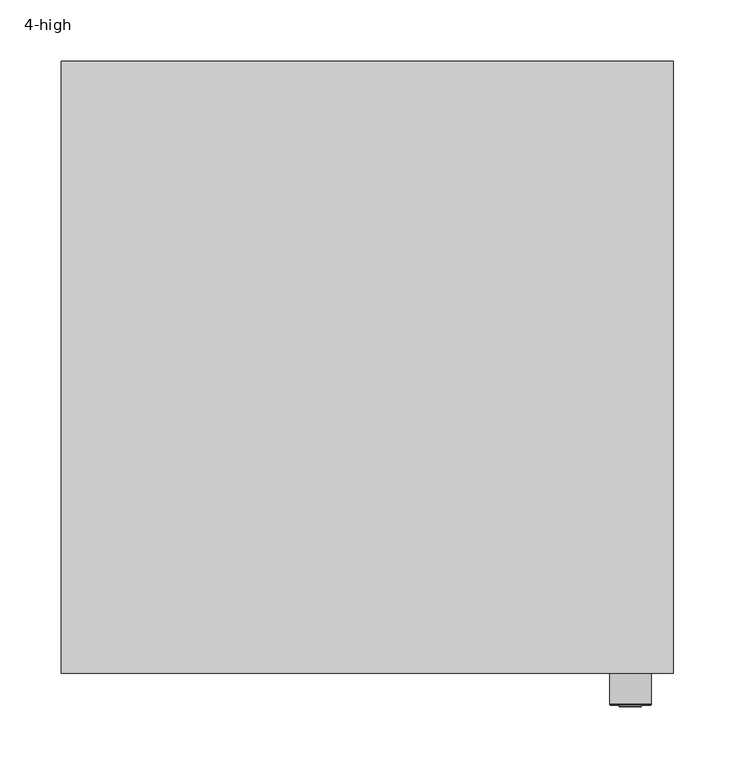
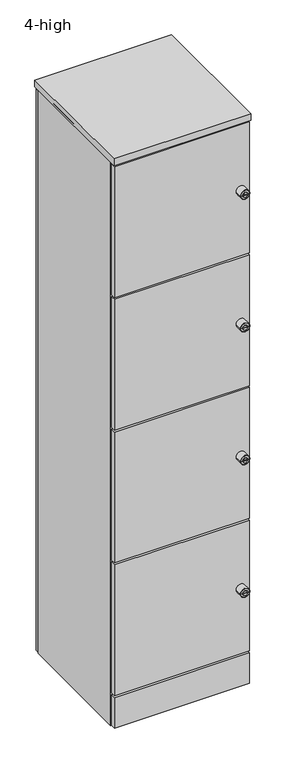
"""IFC4 building model written with IfcOpenShell, lengths in millimetres: furniture geometry, Furniture_Storage_Spacestor_SignatureHotLocker : 4-high."""

from ifc_helpers import new_model, si_unit, point, frame, origin, origin_with_axes, place, context, project, spatial, polyline, circle_curve, ellipse_curve, trimmed, outline, extrude, source, transform, mapped, element, save
from ifc_brep_helpers import plane_surface, cylinder_surface, revolved_surface, advanced_brep


def furniture_4_high_febe7ffe(model_context):
    return source(origin(), model_context, "Body", "SolidModel", [
        extrude(outline(polyline([(489.0, 0.0), (11.0, 0.0), (11.0, 459.0), (489.0, 459.0), (489.0, 0.0)])), frame((0.0, 0.0, 2158.5), z_axis=(0.0, 0.0, 1.0), x_axis=(1.0, 0.0, 0.0)), (0.0, 0.0, 1.0), 22.0),
        extrude(outline(polyline([(489.0, 0.0), (11.0, 0.0), (11.0, 459.0), (489.0, 459.0), (489.0, 0.0)])), frame((0.0, 0.0, 1646.5), z_axis=(0.0, 0.0, 1.0), x_axis=(1.0, 0.0, 0.0)), (0.0, 0.0, 1.0), 22.0),
        extrude(outline(polyline([(489.0, 0.0), (11.0, 0.0), (11.0, 459.0), (489.0, 459.0), (489.0, 0.0)])), frame((0.0, 0.0, 1134.5), z_axis=(0.0, 0.0, 1.0), x_axis=(1.0, 0.0, 0.0)), (0.0, 0.0, 1.0), 22.0),
        extrude(outline(polyline([(489.0, 0.0), (11.0, 0.0), (11.0, 459.0), (489.0, 459.0), (489.0, 0.0)])), frame((0.0, 0.0, 622.5), z_axis=(0.0, 0.0, 1.0), x_axis=(1.0, 0.0, 0.0)), (0.0, 0.0, 1.0), 22.0),
        advanced_brep(
        [(448.0, -45.3116344, 1913.5), (482.0, -45.3116344, 1913.5), (482.0, -18.0, 1913.5), (448.0, -18.0, 1913.5), (465.0, -18.0, 1913.5), (456.0252681, -46.3150077, 1913.5), (473.9747319, -46.3150077, 1913.5), (480.9966266, -46.3150077, 1913.5), (449.0033734, -46.3150077, 1913.5), (456.0252681, -47.4703043, 1913.5), (473.9747319, -47.4703043, 1913.5), (460.1754848, -47.4703043, 1913.5), (460.1754848, -47.4703043, 1914.8633438), (469.8245152, -47.4703043, 1914.8633438), (469.8245152, -47.4703043, 1913.5), (469.8245152, -47.4703043, 1912.1366562), (460.1754848, -47.4703043, 1912.1366562), (469.8245152, -27.8604291, 1914.8633438), (460.1754848, -27.8604291, 1914.8633438), (460.1754848, -27.8604291, 1912.1366562), (469.8245152, -27.8604291, 1912.1366562)],
        [
            (0, 1, circle_curve(frame((465.0, -45.3116344, 1913.5), z_axis=(0.0, 1.0, 0.0), x_axis=(1.0, 0.0, 0.0)), 17.0)),
            (1, 2),
            (2, 3, circle_curve(frame((465.0, -18.0, 1913.5), z_axis=(0.0, -1.0, 0.0), x_axis=(1.0, 0.0, 0.0)), 17.0)),
            (3, 0),
            (1, 0, circle_curve(frame((465.0, -45.3116344, 1913.5), z_axis=(0.0, 1.0, 0.0), x_axis=(1.0, 0.0, 0.0)), 17.0)),
            (3, 2, circle_curve(frame((465.0, -18.0, 1913.5), z_axis=(0.0, -1.0, 0.0), x_axis=(1.0, 0.0, 0.0)), 17.0)),
            (2, 4),
            (4, 3),
            (5, 6, circle_curve(frame((465.0, -46.3150077, 1913.5), z_axis=(0.0, 1.0, 0.0), x_axis=(1.0, 0.0, 0.0)), 8.9747319)),
            (6, 7),
            (7, 8, circle_curve(frame((465.0, -46.3150077, 1913.5), z_axis=(0.0, -1.0, 0.0), x_axis=(1.0, 0.0, 0.0)), 15.9966266)),
            (8, 5),
            (6, 5, circle_curve(frame((465.0, -46.3150077, 1913.5), z_axis=(0.0, 1.0, 0.0), x_axis=(1.0, 0.0, 0.0)), 8.9747319)),
            (8, 7, circle_curve(frame((465.0, -46.3150077, 1913.5), z_axis=(0.0, -1.0, 0.0), x_axis=(1.0, 0.0, 0.0)), 15.9966266)),
            (0, 8, circle_curve(frame((449.0033734, -45.3116344, 1913.5), z_axis=(0.0, 0.0, 1.0), x_axis=(-1.0, 0.0, 0.0)), 1.0033734)),
            (7, 1, circle_curve(frame((480.9966266, -45.3116344, 1913.5), z_axis=(0.0, 0.0, 1.0), x_axis=(1.0, 0.0, 0.0)), 1.0033734)),
            (5, 9),
            (9, 10, circle_curve(frame((465.0, -47.4703043, 1913.5), z_axis=(0.0, 1.0, 0.0), x_axis=(1.0, 0.0, 0.0)), 8.9747319)),
            (10, 6),
            (10, 9, circle_curve(frame((465.0, -47.4703043, 1913.5), z_axis=(0.0, 1.0, 0.0), x_axis=(1.0, 0.0, 0.0)), 8.9747319)),
            (9, 11),
            (11, 12),
            (12, 13),
            (13, 14),
            (14, 10),
            (14, 15),
            (15, 16),
            (16, 11),
            (17, 18),
            (18, 19),
            (19, 20),
            (20, 17),
            (17, 13),
            (12, 18),
            (16, 19),
            (15, 20),
        ],
        [
            cylinder_surface(frame((465.0, -2627.0581012, 1913.5), z_axis=(0.0, -1.0, 0.0), x_axis=(1.0, 0.0, 0.0)), 17.0),
            plane_surface(frame((465.0, -18.0, 1913.5), z_axis=(0.0, 1.0, 0.0), x_axis=(1.0, 0.0, 0.0))),
            plane_surface(frame((465.0, -46.3150077, 1913.5), z_axis=(0.0, -1.0, 0.0), x_axis=(1.0, 0.0, 0.0))),
            revolved_surface(trimmed(ellipse_curve(frame((480.9966266, -45.3116344, 1913.5), z_axis=(0.0, 0.0, -1.0), x_axis=(1.0, 0.0, 0.0)), 1.0033734, 1.0033734), [point((482.0, -45.3116344, 1913.5))], [point((480.9966266, -46.3150077, 1913.5))], True, "CARTESIAN"), (465.0, -2627.0581012, 1913.5), (0.0, -1.0, 0.0)),
            cylinder_surface(frame((465.0, -2627.0581012, 1913.5), z_axis=(0.0, -1.0, 0.0), x_axis=(1.0, 0.0, 0.0)), 8.9747319),
            plane_surface(frame((465.0, -47.4703043, 1913.5), z_axis=(0.0, -1.0, 0.0), x_axis=(1.0, 0.0, 0.0))),
            plane_surface(frame((460.5434751, -27.8604291, 1914.8633438), z_axis=(0.0, -1.0, 0.0), x_axis=(1.0, 0.0, 0.0))),
            plane_surface(frame((469.8245152, -49.2046383, 1914.8633438), z_axis=(0.0, 0.0, -1.0), x_axis=(0.0, 1.0, 0.0))),
            plane_surface(frame((460.1754848, -49.2046383, 1914.8633438), z_axis=(1.0, 0.0, 0.0), x_axis=(0.0, 1.0, 0.0))),
            plane_surface(frame((460.1754848, -49.2046383, 1912.1366562), z_axis=(0.0, 0.0, 1.0), x_axis=(0.0, 1.0, 0.0))),
            plane_surface(frame((469.8245152, -49.2046383, 1912.1366562), z_axis=(-1.0, 0.0, 0.0), x_axis=(0.0, 1.0, 0.0))),
        ],
        [
            (0, [[1, 2, 3, 4]]),
            (0, [[-2, 5, -4, 6]]),
            (1, [[-3, 7, 8]]),
            (1, [[-6, -8, -7]]),
            (2, [[9, 10, 11, 12]]),
            (2, [[-10, 13, -12, 14]]),
            (3, [[-1, 15, -11, 16]]),
            (3, [[-5, -16, -14, -15]]),
            (4, [[-9, 17, 18, 19]]),
            (4, [[-13, -19, 20, -17]]),
            (5, [[-18, 21, 22, 23, 24, 25]]),
            (5, [[-20, -25, 26, 27, 28, -21]]),
            (6, [[29, 30, 31, 32]]),
            (7, [[-29, 33, -23, 34]]),
            (8, [[-30, -34, -22, -28, 35]]),
            (9, [[-31, -35, -27, 36]]),
            (10, [[-32, -36, -26, -24, -33]]),
        ],
    ),
        advanced_brep(
        [(448.0, -45.3116344, 1401.5), (482.0, -45.3116344, 1401.5), (482.0, -18.0, 1401.5), (448.0, -18.0, 1401.5), (465.0, -18.0, 1401.5), (456.0252681, -46.3150077, 1401.5), (473.9747319, -46.3150077, 1401.5), (480.9966266, -46.3150077, 1401.5), (449.0033734, -46.3150077, 1401.5), (456.0252681, -47.4703043, 1401.5), (473.9747319, -47.4703043, 1401.5), (460.1754848, -47.4703043, 1401.5), (460.1754848, -47.4703043, 1402.8633438), (469.8245152, -47.4703043, 1402.8633438), (469.8245152, -47.4703043, 1401.5), (469.8245152, -47.4703043, 1400.1366562), (460.1754848, -47.4703043, 1400.1366562), (469.8245152, -27.8604291, 1402.8633438), (460.1754848, -27.8604291, 1402.8633438), (460.1754848, -27.8604291, 1400.1366562), (469.8245152, -27.8604291, 1400.1366562)],
        [
            (0, 1, circle_curve(frame((465.0, -45.3116344, 1401.5), z_axis=(0.0, 1.0, 0.0), x_axis=(1.0, 0.0, 0.0)), 17.0)),
            (1, 2),
            (2, 3, circle_curve(frame((465.0, -18.0, 1401.5), z_axis=(0.0, -1.0, 0.0), x_axis=(1.0, 0.0, 0.0)), 17.0)),
            (3, 0),
            (1, 0, circle_curve(frame((465.0, -45.3116344, 1401.5), z_axis=(0.0, 1.0, 0.0), x_axis=(1.0, 0.0, 0.0)), 17.0)),
            (3, 2, circle_curve(frame((465.0, -18.0, 1401.5), z_axis=(0.0, -1.0, 0.0), x_axis=(1.0, 0.0, 0.0)), 17.0)),
            (2, 4),
            (4, 3),
            (5, 6, circle_curve(frame((465.0, -46.3150077, 1401.5), z_axis=(0.0, 1.0, 0.0), x_axis=(1.0, 0.0, 0.0)), 8.9747319)),
            (6, 7),
            (7, 8, circle_curve(frame((465.0, -46.3150077, 1401.5), z_axis=(0.0, -1.0, 0.0), x_axis=(1.0, 0.0, 0.0)), 15.9966266)),
            (8, 5),
            (6, 5, circle_curve(frame((465.0, -46.3150077, 1401.5), z_axis=(0.0, 1.0, 0.0), x_axis=(1.0, 0.0, 0.0)), 8.9747319)),
            (8, 7, circle_curve(frame((465.0, -46.3150077, 1401.5), z_axis=(0.0, -1.0, 0.0), x_axis=(1.0, 0.0, 0.0)), 15.9966266)),
            (0, 8, circle_curve(frame((449.0033734, -45.3116344, 1401.5), z_axis=(0.0, 0.0, 1.0), x_axis=(-1.0, 0.0, 0.0)), 1.0033734)),
            (7, 1, circle_curve(frame((480.9966266, -45.3116344, 1401.5), z_axis=(0.0, 0.0, 1.0), x_axis=(1.0, 0.0, 0.0)), 1.0033734)),
            (5, 9),
            (9, 10, circle_curve(frame((465.0, -47.4703043, 1401.5), z_axis=(0.0, 1.0, 0.0), x_axis=(1.0, 0.0, 0.0)), 8.9747319)),
            (10, 6),
            (10, 9, circle_curve(frame((465.0, -47.4703043, 1401.5), z_axis=(0.0, 1.0, 0.0), x_axis=(1.0, 0.0, 0.0)), 8.9747319)),
            (9, 11),
            (11, 12),
            (12, 13),
            (13, 14),
            (14, 10),
            (14, 15),
            (15, 16),
            (16, 11),
            (17, 18),
            (18, 19),
            (19, 20),
            (20, 17),
            (17, 13),
            (12, 18),
            (16, 19),
            (15, 20),
        ],
        [
            cylinder_surface(frame((465.0, -2627.0581012, 1401.5), z_axis=(0.0, -1.0, 0.0), x_axis=(1.0, 0.0, 0.0)), 17.0),
            plane_surface(frame((465.0, -18.0, 1401.5), z_axis=(0.0, 1.0, 0.0), x_axis=(1.0, 0.0, 0.0))),
            plane_surface(frame((465.0, -46.3150077, 1401.5), z_axis=(0.0, -1.0, 0.0), x_axis=(1.0, 0.0, 0.0))),
            revolved_surface(trimmed(ellipse_curve(frame((480.9966266, -45.3116344, 1401.5), z_axis=(0.0, 0.0, -1.0), x_axis=(1.0, 0.0, 0.0)), 1.0033734, 1.0033734), [point((482.0, -45.3116344, 1401.5))], [point((480.9966266, -46.3150077, 1401.5))], True, "CARTESIAN"), (465.0, -2627.0581012, 1401.5), (0.0, -1.0, 0.0)),
            cylinder_surface(frame((465.0, -2627.0581012, 1401.5), z_axis=(0.0, -1.0, 0.0), x_axis=(1.0, 0.0, 0.0)), 8.9747319),
            plane_surface(frame((465.0, -47.4703043, 1401.5), z_axis=(0.0, -1.0, 0.0), x_axis=(1.0, 0.0, 0.0))),
            plane_surface(frame((460.5434751, -27.8604291, 1402.8633438), z_axis=(0.0, -1.0, 0.0), x_axis=(1.0, 0.0, 0.0))),
            plane_surface(frame((469.8245152, -49.2046383, 1402.8633438), z_axis=(0.0, 0.0, -1.0), x_axis=(0.0, 1.0, 0.0))),
            plane_surface(frame((460.1754848, -49.2046383, 1402.8633438), z_axis=(1.0, 0.0, 0.0), x_axis=(0.0, 1.0, 0.0))),
            plane_surface(frame((460.1754848, -49.2046383, 1400.1366562), z_axis=(0.0, 0.0, 1.0), x_axis=(0.0, 1.0, 0.0))),
            plane_surface(frame((469.8245152, -49.2046383, 1400.1366562), z_axis=(-1.0, 0.0, 0.0), x_axis=(0.0, 1.0, 0.0))),
        ],
        [
            (0, [[1, 2, 3, 4]]),
            (0, [[-2, 5, -4, 6]]),
            (1, [[-3, 7, 8]]),
            (1, [[-6, -8, -7]]),
            (2, [[9, 10, 11, 12]]),
            (2, [[-10, 13, -12, 14]]),
            (3, [[-1, 15, -11, 16]]),
            (3, [[-5, -16, -14, -15]]),
            (4, [[-9, 17, 18, 19]]),
            (4, [[-13, -19, 20, -17]]),
            (5, [[-18, 21, 22, 23, 24, 25]]),
            (5, [[-20, -25, 26, 27, 28, -21]]),
            (6, [[29, 30, 31, 32]]),
            (7, [[-29, 33, -23, 34]]),
            (8, [[-30, -34, -22, -28, 35]]),
            (9, [[-31, -35, -27, 36]]),
            (10, [[-32, -36, -26, -24, -33]]),
        ],
    ),
        advanced_brep(
        [(448.0, -45.3116344, 889.5), (482.0, -45.3116344, 889.5), (482.0, -18.0, 889.5), (448.0, -18.0, 889.5), (465.0, -18.0, 889.5), (456.0252681, -46.3150077, 889.5), (473.9747319, -46.3150077, 889.5), (480.9966266, -46.3150077, 889.5), (449.0033734, -46.3150077, 889.5), (456.0252681, -47.4703043, 889.5), (473.9747319, -47.4703043, 889.5), (460.1754848, -47.4703043, 889.5), (460.1754848, -47.4703043, 890.8633438), (469.8245152, -47.4703043, 890.8633438), (469.8245152, -47.4703043, 889.5), (469.8245152, -47.4703043, 888.1366562), (460.1754848, -47.4703043, 888.1366562), (469.8245152, -27.8604291, 890.8633438), (460.1754848, -27.8604291, 890.8633438), (460.1754848, -27.8604291, 888.1366562), (469.8245152, -27.8604291, 888.1366562)],
        [
            (0, 1, circle_curve(frame((465.0, -45.3116344, 889.5), z_axis=(0.0, 1.0, 0.0), x_axis=(1.0, 0.0, 0.0)), 17.0)),
            (1, 2),
            (2, 3, circle_curve(frame((465.0, -18.0, 889.5), z_axis=(0.0, -1.0, 0.0), x_axis=(1.0, 0.0, 0.0)), 17.0)),
            (3, 0),
            (1, 0, circle_curve(frame((465.0, -45.3116344, 889.5), z_axis=(0.0, 1.0, 0.0), x_axis=(1.0, 0.0, 0.0)), 17.0)),
            (3, 2, circle_curve(frame((465.0, -18.0, 889.5), z_axis=(0.0, -1.0, 0.0), x_axis=(1.0, 0.0, 0.0)), 17.0)),
            (2, 4),
            (4, 3),
            (5, 6, circle_curve(frame((465.0, -46.3150077, 889.5), z_axis=(0.0, 1.0, 0.0), x_axis=(1.0, 0.0, 0.0)), 8.9747319)),
            (6, 7),
            (7, 8, circle_curve(frame((465.0, -46.3150077, 889.5), z_axis=(0.0, -1.0, 0.0), x_axis=(1.0, 0.0, 0.0)), 15.9966266)),
            (8, 5),
            (6, 5, circle_curve(frame((465.0, -46.3150077, 889.5), z_axis=(0.0, 1.0, 0.0), x_axis=(1.0, 0.0, 0.0)), 8.9747319)),
            (8, 7, circle_curve(frame((465.0, -46.3150077, 889.5), z_axis=(0.0, -1.0, 0.0), x_axis=(1.0, 0.0, 0.0)), 15.9966266)),
            (0, 8, circle_curve(frame((449.0033734, -45.3116344, 889.5), z_axis=(0.0, 0.0, 1.0), x_axis=(-1.0, 0.0, 0.0)), 1.0033734)),
            (7, 1, circle_curve(frame((480.9966266, -45.3116344, 889.5), z_axis=(0.0, 0.0, 1.0), x_axis=(1.0, 0.0, 0.0)), 1.0033734)),
            (5, 9),
            (9, 10, circle_curve(frame((465.0, -47.4703043, 889.5), z_axis=(0.0, 1.0, 0.0), x_axis=(1.0, 0.0, 0.0)), 8.9747319)),
            (10, 6),
            (10, 9, circle_curve(frame((465.0, -47.4703043, 889.5), z_axis=(0.0, 1.0, 0.0), x_axis=(1.0, 0.0, 0.0)), 8.9747319)),
            (9, 11),
            (11, 12),
            (12, 13),
            (13, 14),
            (14, 10),
            (14, 15),
            (15, 16),
            (16, 11),
            (17, 18),
            (18, 19),
            (19, 20),
            (20, 17),
            (17, 13),
            (12, 18),
            (16, 19),
            (15, 20),
        ],
        [
            cylinder_surface(frame((465.0, -2627.0581012, 889.5), z_axis=(0.0, -1.0, 0.0), x_axis=(1.0, 0.0, 0.0)), 17.0),
            plane_surface(frame((465.0, -18.0, 889.5), z_axis=(0.0, 1.0, 0.0), x_axis=(1.0, 0.0, 0.0))),
            plane_surface(frame((465.0, -46.3150077, 889.5), z_axis=(0.0, -1.0, 0.0), x_axis=(1.0, 0.0, 0.0))),
            revolved_surface(trimmed(ellipse_curve(frame((480.9966266, -45.3116344, 889.5), z_axis=(0.0, 0.0, -1.0), x_axis=(1.0, 0.0, 0.0)), 1.0033734, 1.0033734), [point((482.0, -45.3116344, 889.5))], [point((480.9966266, -46.3150077, 889.5))], True, "CARTESIAN"), (465.0, -2627.0581012, 889.5), (0.0, -1.0, 0.0)),
            cylinder_surface(frame((465.0, -2627.0581012, 889.5), z_axis=(0.0, -1.0, 0.0), x_axis=(1.0, 0.0, 0.0)), 8.9747319),
            plane_surface(frame((465.0, -47.4703043, 889.5), z_axis=(0.0, -1.0, 0.0), x_axis=(1.0, 0.0, 0.0))),
            plane_surface(frame((460.5434751, -27.8604291, 890.8633438), z_axis=(0.0, -1.0, 0.0), x_axis=(1.0, 0.0, 0.0))),
            plane_surface(frame((469.8245152, -49.2046383, 890.8633438), z_axis=(0.0, 0.0, -1.0), x_axis=(0.0, 1.0, 0.0))),
            plane_surface(frame((460.1754848, -49.2046383, 890.8633438), z_axis=(1.0, 0.0, 0.0), x_axis=(0.0, 1.0, 0.0))),
            plane_surface(frame((460.1754848, -49.2046383, 888.1366562), z_axis=(0.0, 0.0, 1.0), x_axis=(0.0, 1.0, 0.0))),
            plane_surface(frame((469.8245152, -49.2046383, 888.1366562), z_axis=(-1.0, 0.0, 0.0), x_axis=(0.0, 1.0, 0.0))),
        ],
        [
            (0, [[1, 2, 3, 4]]),
            (0, [[-2, 5, -4, 6]]),
            (1, [[-3, 7, 8]]),
            (1, [[-6, -8, -7]]),
            (2, [[9, 10, 11, 12]]),
            (2, [[-10, 13, -12, 14]]),
            (3, [[-1, 15, -11, 16]]),
            (3, [[-5, -16, -14, -15]]),
            (4, [[-9, 17, 18, 19]]),
            (4, [[-13, -19, 20, -17]]),
            (5, [[-18, 21, 22, 23, 24, 25]]),
            (5, [[-20, -25, 26, 27, 28, -21]]),
            (6, [[29, 30, 31, 32]]),
            (7, [[-29, 33, -23, 34]]),
            (8, [[-30, -34, -22, -28, 35]]),
            (9, [[-31, -35, -27, 36]]),
            (10, [[-32, -36, -26, -24, -33]]),
        ],
    ),
        advanced_brep(
        [(448.0, -45.3116344, 377.5), (482.0, -45.3116344, 377.5), (482.0, -18.0, 377.5), (448.0, -18.0, 377.5), (465.0, -18.0, 377.5), (456.0252681, -46.3150077, 377.5), (473.9747319, -46.3150077, 377.5), (480.9966266, -46.3150077, 377.5), (449.0033734, -46.3150077, 377.5), (456.0252681, -47.4703043, 377.5), (473.9747319, -47.4703043, 377.5), (460.1754848, -47.4703043, 377.5), (460.1754848, -47.4703043, 378.8633438), (469.8245152, -47.4703043, 378.8633438), (469.8245152, -47.4703043, 377.5), (469.8245152, -47.4703043, 376.1366562), (460.1754848, -47.4703043, 376.1366562), (469.8245152, -27.8604291, 378.8633438), (460.1754848, -27.8604291, 378.8633438), (460.1754848, -27.8604291, 376.1366562), (469.8245152, -27.8604291, 376.1366562)],
        [
            (0, 1, circle_curve(frame((465.0, -45.3116344, 377.5), z_axis=(0.0, 1.0, 0.0), x_axis=(1.0, 0.0, 0.0)), 17.0)),
            (1, 2),
            (2, 3, circle_curve(frame((465.0, -18.0, 377.5), z_axis=(0.0, -1.0, 0.0), x_axis=(1.0, 0.0, 0.0)), 17.0)),
            (3, 0),
            (1, 0, circle_curve(frame((465.0, -45.3116344, 377.5), z_axis=(0.0, 1.0, 0.0), x_axis=(1.0, 0.0, 0.0)), 17.0)),
            (3, 2, circle_curve(frame((465.0, -18.0, 377.5), z_axis=(0.0, -1.0, 0.0), x_axis=(1.0, 0.0, 0.0)), 17.0)),
            (2, 4),
            (4, 3),
            (5, 6, circle_curve(frame((465.0, -46.3150077, 377.5), z_axis=(0.0, 1.0, 0.0), x_axis=(1.0, 0.0, 0.0)), 8.9747319)),
            (6, 7),
            (7, 8, circle_curve(frame((465.0, -46.3150077, 377.5), z_axis=(0.0, -1.0, 0.0), x_axis=(1.0, 0.0, 0.0)), 15.9966266)),
            (8, 5),
            (6, 5, circle_curve(frame((465.0, -46.3150077, 377.5), z_axis=(0.0, 1.0, 0.0), x_axis=(1.0, 0.0, 0.0)), 8.9747319)),
            (8, 7, circle_curve(frame((465.0, -46.3150077, 377.5), z_axis=(0.0, -1.0, 0.0), x_axis=(1.0, 0.0, 0.0)), 15.9966266)),
            (0, 8, circle_curve(frame((449.0033734, -45.3116344, 377.5), z_axis=(0.0, 0.0, 1.0), x_axis=(-1.0, 0.0, 0.0)), 1.0033734)),
            (7, 1, circle_curve(frame((480.9966266, -45.3116344, 377.5), z_axis=(0.0, 0.0, 1.0), x_axis=(1.0, 0.0, 0.0)), 1.0033734)),
            (5, 9),
            (9, 10, circle_curve(frame((465.0, -47.4703043, 377.5), z_axis=(0.0, 1.0, 0.0), x_axis=(1.0, 0.0, 0.0)), 8.9747319)),
            (10, 6),
            (10, 9, circle_curve(frame((465.0, -47.4703043, 377.5), z_axis=(0.0, 1.0, 0.0), x_axis=(1.0, 0.0, 0.0)), 8.9747319)),
            (9, 11),
            (11, 12),
            (12, 13),
            (13, 14),
            (14, 10),
            (14, 15),
            (15, 16),
            (16, 11),
            (17, 18),
            (18, 19),
            (19, 20),
            (20, 17),
            (17, 13),
            (12, 18),
            (16, 19),
            (15, 20),
        ],
        [
            cylinder_surface(frame((465.0, -2627.0581012, 377.5), z_axis=(0.0, -1.0, 0.0), x_axis=(1.0, 0.0, 0.0)), 17.0),
            plane_surface(frame((465.0, -18.0, 377.5), z_axis=(0.0, 1.0, 0.0), x_axis=(1.0, 0.0, 0.0))),
            plane_surface(frame((465.0, -46.3150077, 377.5), z_axis=(0.0, -1.0, 0.0), x_axis=(1.0, 0.0, 0.0))),
            revolved_surface(trimmed(ellipse_curve(frame((480.9966266, -45.3116344, 377.5), z_axis=(0.0, 0.0, -1.0), x_axis=(1.0, 0.0, 0.0)), 1.0033734, 1.0033734), [point((482.0, -45.3116344, 377.5))], [point((480.9966266, -46.3150077, 377.5))], True, "CARTESIAN"), (465.0, -2627.0581012, 377.5), (0.0, -1.0, 0.0)),
            cylinder_surface(frame((465.0, -2627.0581012, 377.5), z_axis=(0.0, -1.0, 0.0), x_axis=(1.0, 0.0, 0.0)), 8.9747319),
            plane_surface(frame((465.0, -47.4703043, 377.5), z_axis=(0.0, -1.0, 0.0), x_axis=(1.0, 0.0, 0.0))),
            plane_surface(frame((460.5434751, -27.8604291, 378.8633438), z_axis=(0.0, -1.0, 0.0), x_axis=(1.0, 0.0, 0.0))),
            plane_surface(frame((469.8245152, -49.2046383, 378.8633438), z_axis=(0.0, 0.0, -1.0), x_axis=(0.0, 1.0, 0.0))),
            plane_surface(frame((460.1754848, -49.2046383, 378.8633438), z_axis=(1.0, 0.0, 0.0), x_axis=(0.0, 1.0, 0.0))),
            plane_surface(frame((460.1754848, -49.2046383, 376.1366562), z_axis=(0.0, 0.0, 1.0), x_axis=(0.0, 1.0, 0.0))),
            plane_surface(frame((469.8245152, -49.2046383, 376.1366562), z_axis=(-1.0, 0.0, 0.0), x_axis=(0.0, 1.0, 0.0))),
        ],
        [
            (0, [[1, 2, 3, 4]]),
            (0, [[-2, 5, -4, 6]]),
            (1, [[-3, 7, 8]]),
            (1, [[-6, -8, -7]]),
            (2, [[9, 10, 11, 12]]),
            (2, [[-10, 13, -12, 14]]),
            (3, [[-1, 15, -11, 16]]),
            (3, [[-5, -16, -14, -15]]),
            (4, [[-9, 17, 18, 19]]),
            (4, [[-13, -19, 20, -17]]),
            (5, [[-18, 21, 22, 23, 24, 25]]),
            (5, [[-20, -25, 26, 27, 28, -21]]),
            (6, [[29, 30, 31, 32]]),
            (7, [[-29, 33, -23, 34]]),
            (8, [[-30, -34, -22, -28, 35]]),
            (9, [[-31, -35, -27, 36]]),
            (10, [[-32, -36, -26, -24, -33]]),
        ],
    ),
        extrude(outline(polyline([(496.5, -18.0), (3.5, -18.0), (3.5, 0.0), (496.5, 0.0), (496.5, -18.0)])), frame((0.0, 0.0, 1661.0), z_axis=(0.0, 0.0, 1.0), x_axis=(1.0, 0.0, 0.0)), (0.0, 0.0, 1.0), 505.0),
        extrude(outline(polyline([(496.5, -18.0), (3.5, -18.0), (3.5, 0.0), (496.5, 0.0), (496.5, -18.0)])), frame((0.0, 0.0, 1149.0), z_axis=(0.0, 0.0, 1.0), x_axis=(1.0, 0.0, 0.0)), (0.0, 0.0, 1.0), 505.0),
        extrude(outline(polyline([(496.5, -18.0), (3.5, -18.0), (3.5, 0.0), (496.5, 0.0), (496.5, -18.0)])), frame((0.0, 0.0, 637.0), z_axis=(0.0, 0.0, 1.0), x_axis=(1.0, 0.0, 0.0)), (0.0, 0.0, 1.0), 505.0),
        extrude(outline(polyline([(496.5, -18.0), (3.5, -18.0), (3.5, 0.0), (496.5, 0.0), (496.5, -18.0)])), frame((0.0, 0.0, 125.0), z_axis=(0.0, 0.0, 1.0), x_axis=(1.0, 0.0, 0.0)), (0.0, 0.0, 1.0), 505.0),
        extrude(outline(polyline([(489.0, 0.0), (11.0, 0.0), (11.0, 459.0), (489.0, 459.0), (489.0, 0.0)])), frame((0.0, 0.0, 110.5), z_axis=(0.0, 0.0, 1.0), x_axis=(1.0, 0.0, 0.0)), (0.0, 0.0, 1.0), 22.0),
        extrude(outline(polyline([(496.5, 459.0), (3.5, 459.0), (3.5, 477.0), (496.5, 477.0), (496.5, 459.0)])), origin_with_axes(), (0.0, 0.0, 1.0), 2166.0),
        extrude(outline(polyline([(496.5, -18.0), (3.5, -18.0), (3.5, 0.0), (496.5, 0.0), (496.5, -18.0)])), origin_with_axes(), (0.0, 0.0, 1.0), 118.0),
        extrude(outline(polyline([(500.0, -20.5), (0.0, -20.5), (0.0, 479.5), (500.0, 479.5), (500.0, -20.5)])), frame((0.0, 0.0, 2173.0), z_axis=(0.0, 0.0, 1.0), x_axis=(1.0, 0.0, 0.0)), (0.0, 0.0, 1.0), 25.5),
        extrude(outline(polyline([(500.0, 0.0), (489.0, 0.0), (489.0, 459.0), (500.0, 459.0), (500.0, 0.0)])), origin_with_axes(), (0.0, 0.0, 1.0), 2180.5),
        extrude(outline(polyline([(11.0, 0.0), (0.0, 0.0), (0.0, 459.0), (11.0, 459.0), (11.0, 0.0)])), origin_with_axes(), (0.0, 0.0, 1.0), 2180.5),
    ])


if __name__ == "__main__":
    model = new_model("IFC4")
    model_context = context("Model", 3, world=origin())
    ifc_project = project(units=[si_unit("LENGTHUNIT", "METRE", prefix="MILLI")], contexts=[model_context])
    site = spatial("IfcSite", under=ifc_project)
    building = spatial("IfcBuilding", under=site)
    placement = place(None, origin())
    furniture_4_high_shape = furniture_4_high_febe7ffe(model_context)
    element("IfcFurniture", 1, ObjectType="Furniture_Storage_Spacestor_SignatureHotLocker : 4-high", at=placement, inside=building, context=model_context, shape_type="MappedRepresentation", body=[
        mapped(furniture_4_high_shape, transform((0.0, 0.0, 0.0), x_axis=(1.0, 0.0, 0.0), y_axis=(0.0, 1.0, 0.0), z_axis=(0.0, 0.0, 1.0))),
    ])
    save(model, "model.ifc")
